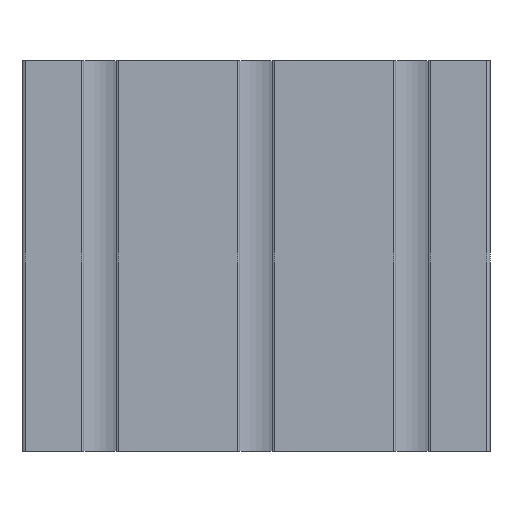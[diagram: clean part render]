
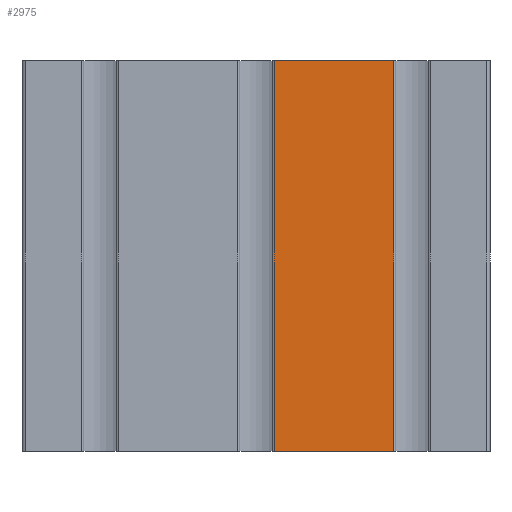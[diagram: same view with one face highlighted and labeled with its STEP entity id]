
A CAD part, front view. The second image highlights one B-rep face of the part: STEP entity #2975.
In plain terms, the highlighted planar face has unit normal (0, -1, 0).
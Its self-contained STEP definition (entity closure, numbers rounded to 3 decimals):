
#67=PLANE('',#3182);
#179=FACE_OUTER_BOUND('',#339,.T.);
#339=EDGE_LOOP('',(#2161,#2162,#2163,#2164));
#557=LINE('',#4566,#869);
#558=LINE('',#4569,#870);
#559=LINE('',#4571,#871);
#560=LINE('',#4572,#872);
#869=VECTOR('',#3676,100.);
#870=VECTOR('',#3679,30.6);
#871=VECTOR('',#3680,30.6);
#872=VECTOR('',#3681,100.);
#1321=VERTEX_POINT('',#4562);
#1322=VERTEX_POINT('',#4564);
#1323=VERTEX_POINT('',#4568);
#1324=VERTEX_POINT('',#4570);
#1669=EDGE_CURVE('',#1321,#1322,#557,.T.);
#1670=EDGE_CURVE('',#1321,#1323,#558,.T.);
#1671=EDGE_CURVE('',#1324,#1322,#559,.T.);
#1672=EDGE_CURVE('',#1323,#1324,#560,.T.);
#2161=ORIENTED_EDGE('',*,*,#1670,.F.);
#2162=ORIENTED_EDGE('',*,*,#1669,.T.);
#2163=ORIENTED_EDGE('',*,*,#1671,.F.);
#2164=ORIENTED_EDGE('',*,*,#1672,.F.);
#2975=ADVANCED_FACE('',(#179),#67,.T.);
#3182=AXIS2_PLACEMENT_3D('',#4567,#3677,#3678);
#3676=DIRECTION('',(0.,0.,1.));
#3677=DIRECTION('center_axis',(0.,-1.,0.));
#3678=DIRECTION('ref_axis',(1.,0.,0.));
#3679=DIRECTION('',(-1.,0.,0.));
#3680=DIRECTION('',(1.,0.,0.));
#3681=DIRECTION('',(0.,0.,1.));
#4562=CARTESIAN_POINT('',(95.306,0.019,0.));
#4564=CARTESIAN_POINT('',(95.306,0.019,100.));
#4566=CARTESIAN_POINT('',(95.306,0.019,0.));
#4567=CARTESIAN_POINT('Origin',(64.706,0.019,0.));
#4568=CARTESIAN_POINT('',(64.706,0.019,0.));
#4569=CARTESIAN_POINT('',(95.306,0.019,0.));
#4570=CARTESIAN_POINT('',(64.706,0.019,100.));
#4571=CARTESIAN_POINT('',(95.306,0.019,100.));
#4572=CARTESIAN_POINT('',(64.706,0.019,0.));
